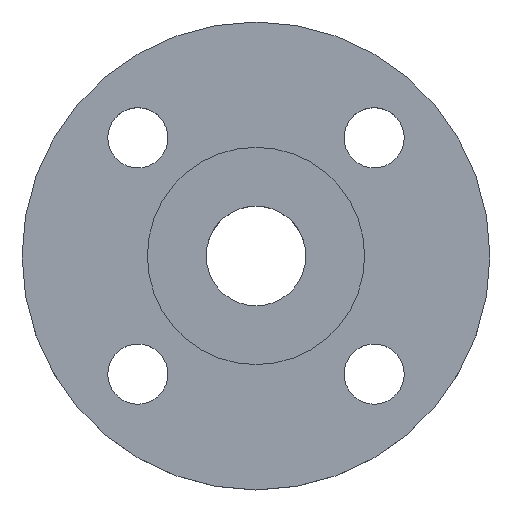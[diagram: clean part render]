
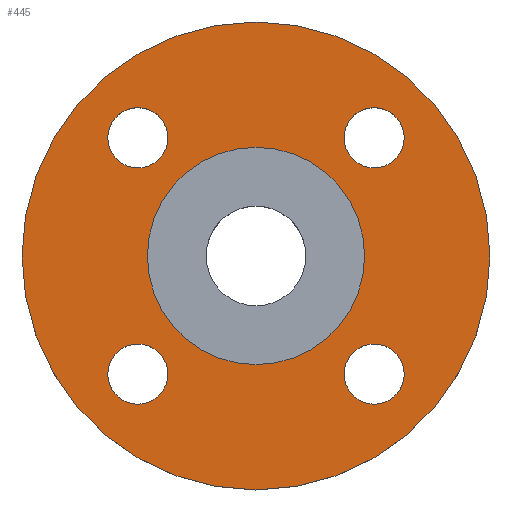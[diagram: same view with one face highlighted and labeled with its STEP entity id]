
A CAD part, top view. The second image highlights one B-rep face of the part: STEP entity #445.
In plain terms, the highlighted planar face has unit normal (0, 0, 1).
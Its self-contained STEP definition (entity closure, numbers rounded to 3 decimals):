
#4 = CIRCLE ( 'NONE', #106, 9. ) ;
#13 = ORIENTED_EDGE ( 'NONE', *, *, #465, .T. ) ;
#14 = CARTESIAN_POINT ( 'NONE',  ( -26.355, 35.355, -4.5 ) ) ;
#18 = EDGE_CURVE ( 'NONE', #555, #162, #43, .T. ) ;
#23 = CARTESIAN_POINT ( 'NONE',  ( -70., 0., -4.5 ) ) ;
#28 = DIRECTION ( 'NONE',  ( 0., 0., -1. ) ) ;
#39 = FACE_BOUND ( 'NONE', #117, .T. ) ;
#43 = CIRCLE ( 'NONE', #61, 9. ) ;
#45 = AXIS2_PLACEMENT_3D ( 'NONE', #407, #635, #137 ) ;
#46 = CARTESIAN_POINT ( 'NONE',  ( 35.355, 35.355, -4.5 ) ) ;
#47 = ORIENTED_EDGE ( 'NONE', *, *, #377, .T. ) ;
#48 = CARTESIAN_POINT ( 'NONE',  ( -44.355, 35.355, -4.5 ) ) ;
#50 = EDGE_LOOP ( 'NONE', ( #479, #156 ) ) ;
#53 = DIRECTION ( 'NONE',  ( -1., 0., 0. ) ) ;
#59 = CIRCLE ( 'NONE', #460, 32.5 ) ;
#61 = AXIS2_PLACEMENT_3D ( 'NONE', #453, #677, #184 ) ;
#67 = CIRCLE ( 'NONE', #170, 32.5 ) ;
#71 = AXIS2_PLACEMENT_3D ( 'NONE', #535, #28, #252 ) ;
#98 = CARTESIAN_POINT ( 'NONE',  ( -35.355, -35.355, -4.5 ) ) ;
#104 = DIRECTION ( 'NONE',  ( 0., 0., -1. ) ) ;
#106 = AXIS2_PLACEMENT_3D ( 'NONE', #98, #315, #544 ) ;
#117 = EDGE_LOOP ( 'NONE', ( #501, #700 ) ) ;
#118 = ORIENTED_EDGE ( 'NONE', *, *, #449, .T. ) ;
#121 = CIRCLE ( 'NONE', #528, 9. ) ;
#123 = EDGE_LOOP ( 'NONE', ( #118, #607 ) ) ;
#135 = DIRECTION ( 'NONE',  ( -1., 0., 0. ) ) ;
#137 = DIRECTION ( 'NONE',  ( -1., 0., 0. ) ) ;
#149 = VERTEX_POINT ( 'NONE', #591 ) ;
#156 = ORIENTED_EDGE ( 'NONE', *, *, #690, .T. ) ;
#159 = CARTESIAN_POINT ( 'NONE',  ( 32.5, 0., -4.5 ) ) ;
#162 = VERTEX_POINT ( 'NONE', #48 ) ;
#164 = DIRECTION ( 'NONE',  ( 0., 0., -1. ) ) ;
#169 = VERTEX_POINT ( 'NONE', #269 ) ;
#170 = AXIS2_PLACEMENT_3D ( 'NONE', #327, #557, #53 ) ;
#177 = AXIS2_PLACEMENT_3D ( 'NONE', #695, #204, #417 ) ;
#183 = CARTESIAN_POINT ( 'NONE',  ( 26.355, -35.355, -4.5 ) ) ;
#184 = DIRECTION ( 'NONE',  ( 1., 0., 0. ) ) ;
#200 = DIRECTION ( 'NONE',  ( 0., 0., -1. ) ) ;
#204 = DIRECTION ( 'NONE',  ( 0., 0., -1. ) ) ;
#212 = FACE_BOUND ( 'NONE', #657, .T. ) ;
#224 = CARTESIAN_POINT ( 'NONE',  ( 35.355, -35.355, -4.5 ) ) ;
#228 = EDGE_LOOP ( 'NONE', ( #319, #286 ) ) ;
#232 = EDGE_CURVE ( 'NONE', #660, #486, #121, .T. ) ;
#238 = CARTESIAN_POINT ( 'NONE',  ( 26.355, 35.355, -4.5 ) ) ;
#251 = CIRCLE ( 'NONE', #663, 9. ) ;
#252 = DIRECTION ( 'NONE',  ( 1., 0., 0. ) ) ;
#260 = FACE_BOUND ( 'NONE', #600, .T. ) ;
#262 = AXIS2_PLACEMENT_3D ( 'NONE', #604, #104, #323 ) ;
#267 = DIRECTION ( 'NONE',  ( 0., 0., -1. ) ) ;
#268 = VERTEX_POINT ( 'NONE', #664 ) ;
#269 = CARTESIAN_POINT ( 'NONE',  ( -32.5, 0., -4.5 ) ) ;
#285 = AXIS2_PLACEMENT_3D ( 'NONE', #46, #267, #494 ) ;
#286 = ORIENTED_EDGE ( 'NONE', *, *, #346, .F. ) ;
#292 = CARTESIAN_POINT ( 'NONE',  ( 32.5, 0., -4.5 ) ) ;
#300 = EDGE_CURVE ( 'NONE', #149, #328, #673, .T. ) ;
#315 = DIRECTION ( 'NONE',  ( 0., 0., -1. ) ) ;
#319 = ORIENTED_EDGE ( 'NONE', *, *, #300, .F. ) ;
#323 = DIRECTION ( 'NONE',  ( 1., 0., 0. ) ) ;
#327 = CARTESIAN_POINT ( 'NONE',  ( 0., 0., -4.5 ) ) ;
#328 = VERTEX_POINT ( 'NONE', #23 ) ;
#346 = EDGE_CURVE ( 'NONE', #328, #149, #414, .T. ) ;
#374 = DIRECTION ( 'NONE',  ( 0., 0., 1. ) ) ;
#377 = EDGE_CURVE ( 'NONE', #508, #497, #385, .T. ) ;
#380 = DIRECTION ( 'NONE',  ( 1., 0., 0. ) ) ;
#385 = CIRCLE ( 'NONE', #71, 9. ) ;
#389 = EDGE_CURVE ( 'NONE', #560, #268, #474, .T. ) ;
#396 = CARTESIAN_POINT ( 'NONE',  ( -26.355, -35.355, -4.5 ) ) ;
#405 = CARTESIAN_POINT ( 'NONE',  ( 0., 0., -4.5 ) ) ;
#407 = CARTESIAN_POINT ( 'NONE',  ( 0., 0., -4.5 ) ) ;
#414 = CIRCLE ( 'NONE', #517, 70. ) ;
#415 = DIRECTION ( 'NONE',  ( -1., 0., 0. ) ) ;
#417 = DIRECTION ( 'NONE',  ( 1., 0., 0. ) ) ;
#430 = FACE_OUTER_BOUND ( 'NONE', #228, .T. ) ;
#439 = EDGE_CURVE ( 'NONE', #497, #508, #4, .T. ) ;
#442 = DIRECTION ( 'NONE',  ( 0., 0., -1. ) ) ;
#445 = ADVANCED_FACE ( 'NONE', ( #39, #260, #488, #706, #212, #430 ), #652, .T. ) ;
#449 = EDGE_CURVE ( 'NONE', #268, #560, #606, .T. ) ;
#453 = CARTESIAN_POINT ( 'NONE',  ( -35.355, 35.355, -4.5 ) ) ;
#460 = AXIS2_PLACEMENT_3D ( 'NONE', #405, #633, #135 ) ;
#465 = EDGE_CURVE ( 'NONE', #169, #546, #67, .T. ) ;
#474 = CIRCLE ( 'NONE', #177, 9. ) ;
#475 = EDGE_CURVE ( 'NONE', #486, #660, #251, .T. ) ;
#479 = ORIENTED_EDGE ( 'NONE', *, *, #18, .T. ) ;
#486 = VERTEX_POINT ( 'NONE', #183 ) ;
#488 = FACE_BOUND ( 'NONE', #50, .T. ) ;
#494 = DIRECTION ( 'NONE',  ( 1., 0., 0. ) ) ;
#497 = VERTEX_POINT ( 'NONE', #396 ) ;
#501 = ORIENTED_EDGE ( 'NONE', *, *, #232, .T. ) ;
#508 = VERTEX_POINT ( 'NONE', #568 ) ;
#512 = AXIS2_PLACEMENT_3D ( 'NONE', #159, #374, #602 ) ;
#517 = AXIS2_PLACEMENT_3D ( 'NONE', #692, #200, #415 ) ;
#528 = AXIS2_PLACEMENT_3D ( 'NONE', #658, #164, #380 ) ;
#535 = CARTESIAN_POINT ( 'NONE',  ( -35.355, -35.355, -4.5 ) ) ;
#544 = DIRECTION ( 'NONE',  ( 1., 0., 0. ) ) ;
#546 = VERTEX_POINT ( 'NONE', #292 ) ;
#555 = VERTEX_POINT ( 'NONE', #14 ) ;
#557 = DIRECTION ( 'NONE',  ( 0., 0., -1. ) ) ;
#560 = VERTEX_POINT ( 'NONE', #238 ) ;
#568 = CARTESIAN_POINT ( 'NONE',  ( -44.355, -35.355, -4.5 ) ) ;
#583 = CIRCLE ( 'NONE', #262, 9. ) ;
#591 = CARTESIAN_POINT ( 'NONE',  ( 70., 0., -4.5 ) ) ;
#600 = EDGE_LOOP ( 'NONE', ( #605, #47 ) ) ;
#602 = DIRECTION ( 'NONE',  ( 1., 0., 0. ) ) ;
#604 = CARTESIAN_POINT ( 'NONE',  ( -35.355, 35.355, -4.5 ) ) ;
#605 = ORIENTED_EDGE ( 'NONE', *, *, #439, .T. ) ;
#606 = CIRCLE ( 'NONE', #285, 9. ) ;
#607 = ORIENTED_EDGE ( 'NONE', *, *, #389, .T. ) ;
#614 = EDGE_CURVE ( 'NONE', #546, #169, #59, .T. ) ;
#617 = ORIENTED_EDGE ( 'NONE', *, *, #614, .T. ) ;
#633 = DIRECTION ( 'NONE',  ( 0., 0., -1. ) ) ;
#635 = DIRECTION ( 'NONE',  ( 0., 0., -1. ) ) ;
#652 = PLANE ( 'NONE',  #512 ) ;
#657 = EDGE_LOOP ( 'NONE', ( #13, #617 ) ) ;
#658 = CARTESIAN_POINT ( 'NONE',  ( 35.355, -35.355, -4.5 ) ) ;
#660 = VERTEX_POINT ( 'NONE', #702 ) ;
#663 = AXIS2_PLACEMENT_3D ( 'NONE', #224, #442, #665 ) ;
#664 = CARTESIAN_POINT ( 'NONE',  ( 44.355, 35.355, -4.5 ) ) ;
#665 = DIRECTION ( 'NONE',  ( 1., 0., 0. ) ) ;
#673 = CIRCLE ( 'NONE', #45, 70. ) ;
#677 = DIRECTION ( 'NONE',  ( 0., 0., -1. ) ) ;
#690 = EDGE_CURVE ( 'NONE', #162, #555, #583, .T. ) ;
#692 = CARTESIAN_POINT ( 'NONE',  ( 0., 0., -4.5 ) ) ;
#695 = CARTESIAN_POINT ( 'NONE',  ( 35.355, 35.355, -4.5 ) ) ;
#700 = ORIENTED_EDGE ( 'NONE', *, *, #475, .T. ) ;
#702 = CARTESIAN_POINT ( 'NONE',  ( 44.355, -35.355, -4.5 ) ) ;
#706 = FACE_BOUND ( 'NONE', #123, .T. ) ;
